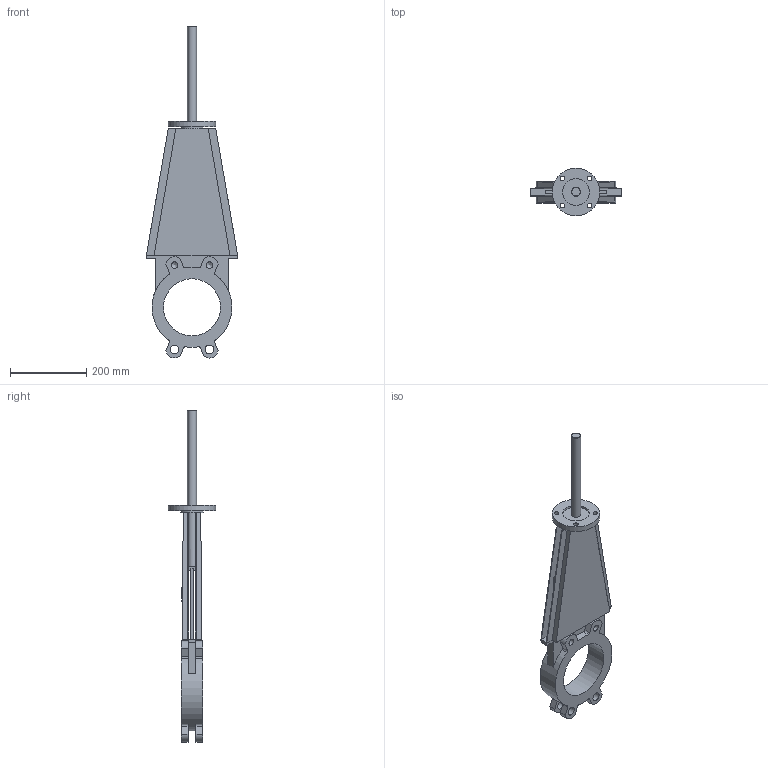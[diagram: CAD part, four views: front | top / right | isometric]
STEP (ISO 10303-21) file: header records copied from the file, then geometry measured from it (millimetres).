
FILE_DESCRIPTION(('STEP AP203'), '1');
FILE_NAME('K21GVA_DN150', '', ('UNSPECIFIED'), ('UNSPECIFIED'), 'ASCON STEP Converter 1.6', 'ASCON Math Kernel', '');
FILE_SCHEMA(('CONFIG_CONTROL_DESIGN'));
Length unit declared in the file: millimetre
Bounding box: 240 x 125 x 873.4 mm (x, y, z)
Volume: 2159203.1 mm3; surface area: 561105.4 mm2
Topology: 1 solids, 1 shells, 155 faces, 434 edges, 281 vertices
Faces by surface type: plane 98, cylinder 52, cone 5
Full cylindrical faces by diameter (mm): 12 x4, 17.294 x4, 23 x4, 24 x2, 60 x1, 70 x1, 125 x1, 150 x1
Entity records: 6158 total; most frequent: DIRECTION 848, CARTESIAN_POINT 840, ORIENTED_EDGE 814, EDGE_CURVE 407, AXIS2_PLACEMENT_3D 285, LINE 278, VECTOR 278, VERTEX_POINT 277
